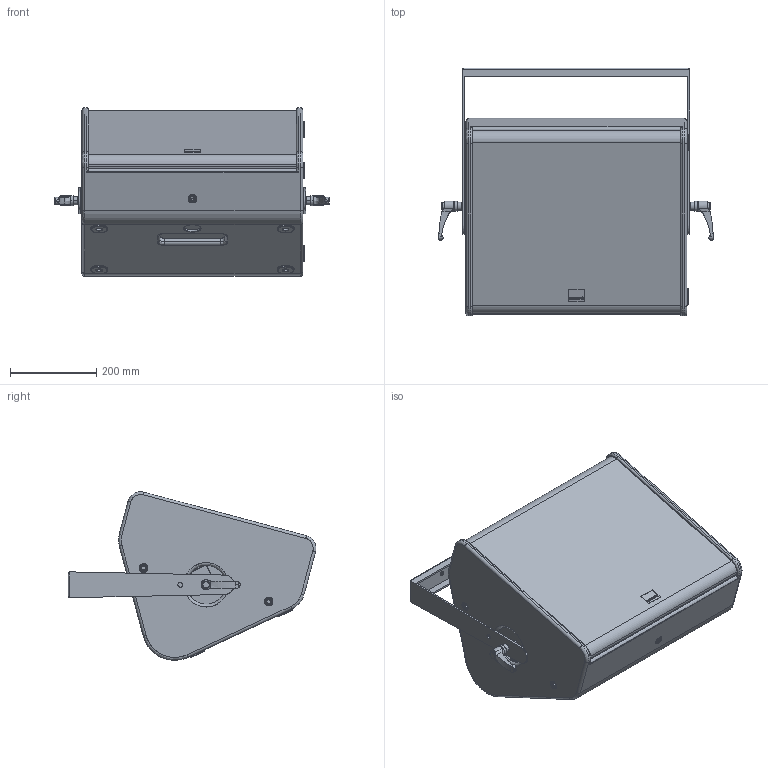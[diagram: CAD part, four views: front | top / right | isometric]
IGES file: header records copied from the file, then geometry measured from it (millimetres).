
Start section: SolidWorks IGES file using analytic representation for surfaces
Global section: file name: C:\Dokumente und Einstellungen\PC_Fabian\Desktop\M-Serie\Seeburg_M5-Bracket-hor.IGS; native system: SolidWorks 2009; preprocessor: SolidWorks 2009; author: PC_Fabian; date: 121017.130118; units: millimetre
Bounding box: 635.25 x 574.48 x 390.46 mm (x, y, z)
Surface area: 2271145.6 mm2 (no closed solid volume)
Topology: 0 solids, 0 shells, 874 faces, 13824 edges, 13824 vertices
Faces by surface type: revolution 524, bspline 350
